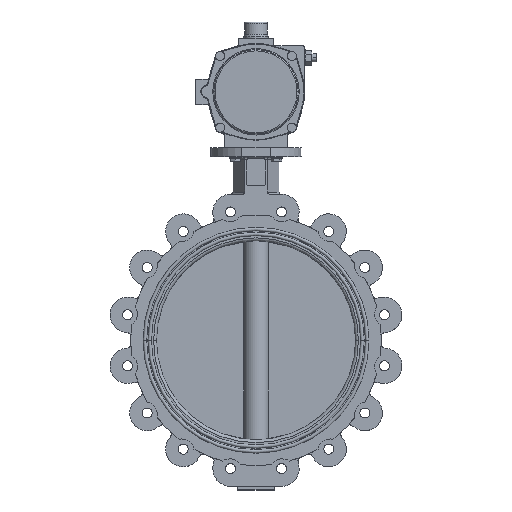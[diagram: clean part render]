
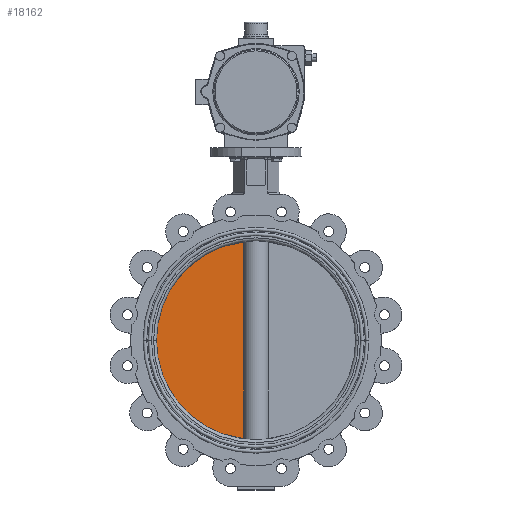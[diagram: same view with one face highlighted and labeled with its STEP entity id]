
A CAD part, top view. The second image highlights one B-rep face of the part: STEP entity #18162.
In plain terms, the highlighted planar face has unit normal (0, 0, 1).
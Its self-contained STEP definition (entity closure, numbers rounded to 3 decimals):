
#149 = ORIENTED_EDGE ( 'NONE', *, *, #8701, .F. ) ;
#1300 = EDGE_CURVE ( 'NONE', #16306, #19349, #8204, .T. ) ;
#1587 = DIRECTION ( 'NONE',  ( -1., 0., 0. ) ) ;
#2248 = CIRCLE ( 'NONE', #14092, 175. ) ;
#3049 = CARTESIAN_POINT ( 'NONE',  ( 0., 0., 6. ) ) ;
#3764 = VECTOR ( 'NONE', #22921, 1000. ) ;
#4606 = FACE_OUTER_BOUND ( 'NONE', #13403, .T. ) ;
#5693 = ORIENTED_EDGE ( 'NONE', *, *, #25367, .F. ) ;
#6164 = DIRECTION ( 'NONE',  ( -1., 0., 0. ) ) ;
#6641 = DIRECTION ( 'NONE',  ( -1., 0., 0. ) ) ;
#6903 = CARTESIAN_POINT ( 'NONE',  ( -177., 369.501, 6. ) ) ;
#8204 = CIRCLE ( 'NONE', #11480, 175. ) ;
#8701 = EDGE_CURVE ( 'NONE', #12804, #16306, #19304, .T. ) ;
#11480 = AXIS2_PLACEMENT_3D ( 'NONE', #13968, #20026, #6164 ) ;
#12410 = DIRECTION ( 'NONE',  ( 0., 0., -1. ) ) ;
#12804 = VERTEX_POINT ( 'NONE', #16189 ) ;
#13403 = EDGE_LOOP ( 'NONE', ( #24200, #149, #5693 ) ) ;
#13968 = CARTESIAN_POINT ( 'NONE',  ( 0., 0., 6. ) ) ;
#14092 = AXIS2_PLACEMENT_3D ( 'NONE', #3049, #19419, #1587 ) ;
#14768 = CARTESIAN_POINT ( 'NONE',  ( -21.166, -173.715, 6. ) ) ;
#16189 = CARTESIAN_POINT ( 'NONE',  ( -21.166, 173.715, 6. ) ) ;
#16306 = VERTEX_POINT ( 'NONE', #14768 ) ;
#18162 = ADVANCED_FACE ( 'NONE', ( #4606 ), #23984, .F. ) ;
#19304 = LINE ( 'NONE', #21115, #3764 ) ;
#19349 = VERTEX_POINT ( 'NONE', #24247 ) ;
#19419 = DIRECTION ( 'NONE',  ( 0., 0., -1. ) ) ;
#20026 = DIRECTION ( 'NONE',  ( 0., 0., -1. ) ) ;
#20900 = AXIS2_PLACEMENT_3D ( 'NONE', #6903, #12410, #6641 ) ;
#21115 = CARTESIAN_POINT ( 'NONE',  ( -21.166, 369.501, 6. ) ) ;
#22921 = DIRECTION ( 'NONE',  ( 0., -1., 0. ) ) ;
#23984 = PLANE ( 'NONE',  #20900 ) ;
#24200 = ORIENTED_EDGE ( 'NONE', *, *, #1300, .F. ) ;
#24247 = CARTESIAN_POINT ( 'NONE',  ( -175., 0., 6. ) ) ;
#25367 = EDGE_CURVE ( 'NONE', #19349, #12804, #2248, .T. ) ;
